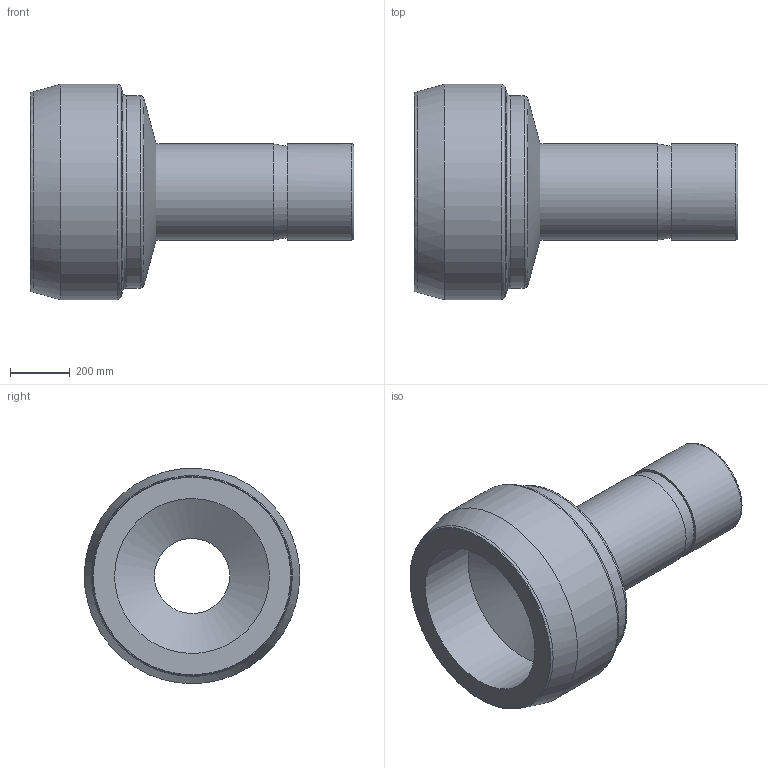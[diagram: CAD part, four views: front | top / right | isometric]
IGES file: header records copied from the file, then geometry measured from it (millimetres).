
Global section: file name: SRPC-16-8; native system: Autodesk Inventor 2016; preprocessor: unknown; author: DESIGNPC2; date: 20151219.134204; units: millimetre
Bounding box: 1084.58 x 721.36 x 721.36 mm (x, y, z)
Volume: 115870640.7 mm3; surface area: 3135454.9 mm2
Topology: 1 solids, 1 shells, 20 faces, 65 edges, 48 vertices
Faces by surface type: bspline 20
